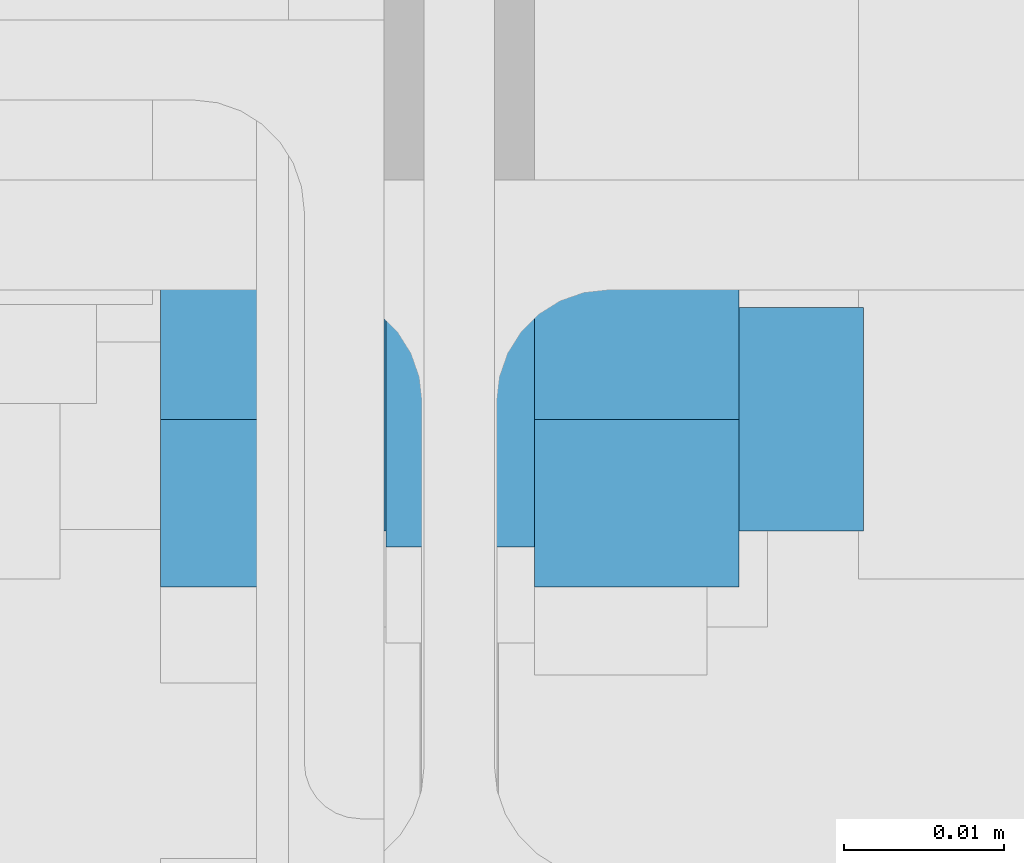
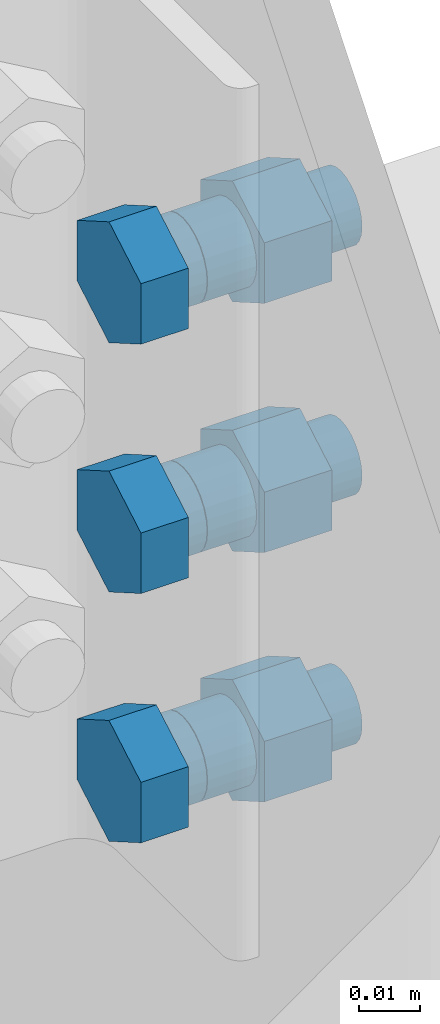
# One storey, part 14 of 21: 1 mechanical fastener.
"""IFC2X3 building model written with IfcOpenShell, lengths in millimetres."""

from ifc_helpers import new_model, si_unit, frame, origin_with_axes, place, context, project, spatial, faceted_brep, element, save


model = new_model("IFC2X3")

# Units and contexts
model_context_1 = context("Model", 3, precision=1e-05, world=origin_with_axes(), identifier="Body")
model_context_2 = context("Model", 3, precision=1e-05, world=origin_with_axes())
ifc_project = project(units=[si_unit("LENGTHUNIT", "METRE", prefix="MILLI"), si_unit("AREAUNIT", "SQUARE_METRE"), si_unit("VOLUMEUNIT", "CUBIC_METRE"), si_unit("MASSUNIT", "GRAM", prefix="KILO"), si_unit("TIMEUNIT", "SECOND"), si_unit("PLANEANGLEUNIT", "RADIAN"), si_unit("SOLIDANGLEUNIT", "STERADIAN"), si_unit("THERMODYNAMICTEMPERATUREUNIT", "DEGREE_CELSIUS"), si_unit("LUMINOUSINTENSITYUNIT", "LUMEN")], contexts=[model_context_1, model_context_2])

# Site, building, storey
site_placement = place(None, origin_with_axes())
site = spatial("IfcSite", under=ifc_project, at=site_placement, Name="Undefined", CompositionType="ELEMENT")
building_placement = place(site_placement, origin_with_axes())
building = spatial("IfcBuilding", under=site, at=building_placement, Name="Undefined", CompositionType="ELEMENT")
storey_placement = place(building_placement, origin_with_axes())
storey = spatial("IfcBuildingStorey", under=building, at=storey_placement, Name="Undefined", CompositionType="ELEMENT")

# Mechanical fastener
mechanical_fastener_placement = place(storey_placement, frame((9.7291426e-06, -99.999195, 70.583134), z_axis=(3.4106055e-16, -1.0, -3.1900003e-05), x_axis=(1.2899234e-13, 3.1900003e-05, -1.0)))
element("IfcMechanicalFastener", 1, at=mechanical_fastener_placement, inside=storey, Name="Bolt assembly", NominalDiameter=14.0, NominalLength=35.0, context=model_context_1, shape_type="Brep", body=[
    faceted_brep([(12.124356, -18.70001, 0.0), (6.0621778, -18.70001, 10.5), (-6.0621778, -18.70001, 10.5), (-12.124356, -18.70001, 0.0), (-6.0621778, -18.70001, -10.5), (6.0621778, -18.70001, -10.5), (6.0621778, -9.7000095, -10.5), (-6.0621778, -9.7000095, -10.5), (-12.124356, -9.7000095, 0.0), (-6.0621778, -9.7000095, 10.5), (6.0621778, -9.7000095, 10.5), (12.124356, -9.7000095, 0.0), (7.0, -9.7000095, 0.0), (6.7614808, -9.7000095, 1.8117333), (6.0621778, -9.7000095, 3.5), (4.9497475, -9.7000095, 4.9497475), (3.5, -9.7000095, 6.0621778), (1.8117333, -9.7000095, 6.7614808), (-7.2543519e-13, -9.7000095, 7.0), (-1.8117333, -9.7000095, 6.7614808), (-3.5, -9.7000095, 6.0621778), (-4.9497475, -9.7000095, 4.9497475), (-6.0621778, -9.7000095, 3.5), (-6.7614808, -9.7000095, 1.8117333), (-7.0, -9.7000095, -1.4508704e-12), (-6.7614808, -9.7000095, -1.8117333), (-6.0621778, -9.7000095, -3.5), (-4.9497475, -9.7000095, -4.9497475), (-3.5, -9.7000095, -6.0621778), (-1.8117333, -9.7000095, -6.7614808), (2.168534e-12, -9.7000095, -7.0), (1.8117333, -9.7000095, -6.7614808), (3.5, -9.7000095, -6.0621778), (4.9497475, -9.7000095, -4.9497475), (6.0621778, -9.7000095, -3.5), (6.7614808, -9.7000095, -1.8117333), (6.7614808, 25.29999, -1.8117333), (6.0621778, 25.29999, -3.5), (4.9497475, 25.29999, -4.9497475), (3.5, 25.29999, -6.0621778), (1.8117333, 25.29999, -6.7614808), (2.168534e-12, 25.29999, -7.0), (-1.8117333, 25.29999, -6.7614808), (-3.5, 25.29999, -6.0621778), (-4.9497475, 25.29999, -4.9497475), (-6.0621778, 25.29999, -3.5), (-6.7614808, 25.29999, -1.8117333), (-7.0, 25.29999, -1.4508704e-12), (-6.7614808, 25.29999, 1.8117333), (-6.0621778, 25.29999, 3.5), (-4.9497475, 25.29999, 4.9497475), (-3.5, 25.29999, 6.0621778), (-1.8117333, 25.29999, 6.7614808), (-7.2543519e-13, 25.29999, 7.0), (1.8117333, 25.29999, 6.7614808), (3.5, 25.29999, 6.0621778), (4.9497475, 25.29999, 4.9497475), (6.0621778, 25.29999, 3.5), (6.7614808, 25.29999, 1.8117333), (7.0, 25.29999, 0.0), (12.124356, 4.6999901, 0.0), (6.0621778, 4.6999901, 10.5), (-6.0621778, 4.6999901, 10.5), (-12.124356, 4.6999901, 0.0), (-6.0621778, 4.6999901, -10.5), (6.0621778, 4.6999901, -10.5), (6.0621778, 17.49999, -10.5), (-6.0621778, 17.49999, -10.5), (-12.124356, 17.49999, 0.0), (-6.0621778, 17.49999, 10.5), (6.0621778, 17.49999, 10.5), (12.124356, 17.49999, 0.0), (62.124356, -18.70001, 0.0), (56.062178, -18.70001, 10.5), (43.937822, -18.70001, 10.5), (37.875644, -18.70001, 0.0), (43.937822, -18.70001, -10.5), (56.062178, -18.70001, -10.5), (56.062178, -9.7000095, -10.5), (43.937822, -9.7000095, -10.5), (37.875644, -9.7000095, 0.0), (43.937822, -9.7000095, 10.5), (56.062178, -9.7000095, 10.5), (62.124356, -9.7000095, 0.0), (57.0, -9.7000095, 0.0), (56.761481, -9.7000095, 1.8117333), (56.062178, -9.7000095, 3.5), (54.949747, -9.7000095, 4.9497475), (53.5, -9.7000095, 6.0621778), (51.811733, -9.7000095, 6.7614808), (50.0, -9.7000095, 7.0), (48.188267, -9.7000095, 6.7614808), (46.5, -9.7000095, 6.0621778), (45.050253, -9.7000095, 4.9497475), (43.937822, -9.7000095, 3.5), (43.238519, -9.7000095, 1.8117333), (43.0, -9.7000095, -1.4508704e-12), (43.238519, -9.7000095, -1.8117333), (43.937822, -9.7000095, -3.5), (45.050253, -9.7000095, -4.9497475), (46.5, -9.7000095, -6.0621778), (48.188267, -9.7000095, -6.7614808), (50.0, -9.7000095, -7.0), (51.811733, -9.7000095, -6.7614808), (53.5, -9.7000095, -6.0621778), (54.949747, -9.7000095, -4.9497475), (56.062178, -9.7000095, -3.5), (56.761481, -9.7000095, -1.8117333), (56.761481, 25.29999, -1.8117333), (56.062178, 25.29999, -3.5), (54.949747, 25.29999, -4.9497475), (53.5, 25.29999, -6.0621778), (51.811733, 25.29999, -6.7614808), (50.0, 25.29999, -7.0), (48.188267, 25.29999, -6.7614808), (46.5, 25.29999, -6.0621778), (45.050253, 25.29999, -4.9497475), (43.937822, 25.29999, -3.5), (43.238519, 25.29999, -1.8117333), (43.0, 25.29999, -1.4508704e-12), (43.238519, 25.29999, 1.8117333), (43.937822, 25.29999, 3.5), (45.050253, 25.29999, 4.9497475), (46.5, 25.29999, 6.0621778), (48.188267, 25.29999, 6.7614808), (50.0, 25.29999, 7.0), (51.811733, 25.29999, 6.7614808), (53.5, 25.29999, 6.0621778), (54.949747, 25.29999, 4.9497475), (56.062178, 25.29999, 3.5), (56.761481, 25.29999, 1.8117333), (57.0, 25.29999, 0.0), (62.124356, 4.6999901, 0.0), (56.062178, 4.6999901, 10.5), (43.937822, 4.6999901, 10.5), (37.875644, 4.6999901, 0.0), (43.937822, 4.6999901, -10.5), (56.062178, 4.6999901, -10.5), (56.062178, 17.49999, -10.5), (43.937822, 17.49999, -10.5), (37.875644, 17.49999, 0.0), (43.937822, 17.49999, 10.5), (56.062178, 17.49999, 10.5), (62.124356, 17.49999, 0.0), (112.12436, -18.70001, 0.0), (106.06218, -18.70001, 10.5), (93.937822, -18.70001, 10.5), (87.875644, -18.70001, 0.0), (93.937822, -18.70001, -10.5), (106.06218, -18.70001, -10.5), (106.06218, -9.7000095, -10.5), (93.937822, -9.7000095, -10.5), (87.875644, -9.7000095, 0.0), (93.937822, -9.7000095, 10.5), (106.06218, -9.7000095, 10.5), (112.12436, -9.7000095, 0.0), (107.0, -9.7000095, 0.0), (106.76148, -9.7000095, 1.8117333), (106.06218, -9.7000095, 3.5), (104.94975, -9.7000095, 4.9497475), (103.5, -9.7000095, 6.0621778), (101.81173, -9.7000095, 6.7614808), (100.0, -9.7000095, 7.0), (98.188267, -9.7000095, 6.7614808), (96.5, -9.7000095, 6.0621778), (95.050253, -9.7000095, 4.9497475), (93.937822, -9.7000095, 3.5), (93.238519, -9.7000095, 1.8117333), (93.0, -9.7000095, -1.4508704e-12), (93.238519, -9.7000095, -1.8117333), (93.937822, -9.7000095, -3.5), (95.050253, -9.7000095, -4.9497475), (96.5, -9.7000095, -6.0621778), (98.188267, -9.7000095, -6.7614808), (100.0, -9.7000095, -7.0), (101.81173, -9.7000095, -6.7614808), (103.5, -9.7000095, -6.0621778), (104.94975, -9.7000095, -4.9497475), (106.06218, -9.7000095, -3.5), (106.76148, -9.7000095, -1.8117333), (106.76148, 25.29999, -1.8117333), (106.06218, 25.29999, -3.5), (104.94975, 25.29999, -4.9497475), (103.5, 25.29999, -6.0621778), (101.81173, 25.29999, -6.7614808), (100.0, 25.29999, -7.0), (98.188267, 25.29999, -6.7614808), (96.5, 25.29999, -6.0621778), (95.050253, 25.29999, -4.9497475), (93.937822, 25.29999, -3.5), (93.238519, 25.29999, -1.8117333), (93.0, 25.29999, -1.4508704e-12), (93.238519, 25.29999, 1.8117333), (93.937822, 25.29999, 3.5), (95.050253, 25.29999, 4.9497475), (96.5, 25.29999, 6.0621778), (98.188267, 25.29999, 6.7614808), (100.0, 25.29999, 7.0), (101.81173, 25.29999, 6.7614808), (103.5, 25.29999, 6.0621778), (104.94975, 25.29999, 4.9497475), (106.06218, 25.29999, 3.5), (106.76148, 25.29999, 1.8117333), (107.0, 25.29999, 0.0), (112.12436, 4.6999901, 0.0), (106.06218, 4.6999901, 10.5), (93.937822, 4.6999901, 10.5), (87.875644, 4.6999901, 0.0), (93.937822, 4.6999901, -10.5), (106.06218, 4.6999901, -10.5), (106.06218, 17.49999, -10.5), (93.937822, 17.49999, -10.5), (87.875644, 17.49999, 0.0), (93.937822, 17.49999, 10.5), (106.06218, 17.49999, 10.5), (112.12436, 17.49999, 0.0)], [[[0, 1, 2, 3, 4, 5]], [[6, 7, 8, 9, 10, 11]], [[0, 11, 10, 1]], [[1, 10, 9, 2]], [[2, 9, 8, 3]], [[3, 8, 7, 4]], [[4, 7, 6, 5]], [[5, 6, 11, 0]], [[12, 13, 14, 15, 16, 17, 18, 19, 20, 21, 22, 23, 24, 25, 26, 27, 28, 29, 30, 31, 32, 33, 34, 35]], [[36, 37, 38, 39, 40, 41, 42, 43, 44, 45, 46, 47, 48, 49, 50, 51, 52, 53, 54, 55, 56, 57, 58, 59]], [[12, 59, 58, 13]], [[13, 58, 57, 14]], [[14, 57, 56, 15]], [[15, 56, 55, 16]], [[16, 55, 54, 17]], [[17, 54, 53, 18]], [[18, 53, 52, 19]], [[19, 52, 51, 20]], [[20, 51, 50, 21]], [[21, 50, 49, 22]], [[22, 49, 48, 23]], [[23, 48, 47, 24]], [[24, 47, 46, 25]], [[25, 46, 45, 26]], [[26, 45, 44, 27]], [[27, 44, 43, 28]], [[28, 43, 42, 29]], [[29, 42, 41, 30]], [[30, 41, 40, 31]], [[31, 40, 39, 32]], [[32, 39, 38, 33]], [[33, 38, 37, 34]], [[34, 37, 36, 35]], [[35, 36, 59, 12]], [[60, 61, 62, 63, 64, 65]], [[66, 67, 68, 69, 70, 71]], [[60, 71, 70, 61]], [[61, 70, 69, 62]], [[62, 69, 68, 63]], [[63, 68, 67, 64]], [[64, 67, 66, 65]], [[65, 66, 71, 60]], [[72, 73, 74, 75, 76, 77]], [[78, 79, 80, 81, 82, 83]], [[72, 83, 82, 73]], [[73, 82, 81, 74]], [[74, 81, 80, 75]], [[75, 80, 79, 76]], [[76, 79, 78, 77]], [[77, 78, 83, 72]], [[84, 85, 86, 87, 88, 89, 90, 91, 92, 93, 94, 95, 96, 97, 98, 99, 100, 101, 102, 103, 104, 105, 106, 107]], [[108, 109, 110, 111, 112, 113, 114, 115, 116, 117, 118, 119, 120, 121, 122, 123, 124, 125, 126, 127, 128, 129, 130, 131]], [[84, 131, 130, 85]], [[85, 130, 129, 86]], [[86, 129, 128, 87]], [[87, 128, 127, 88]], [[88, 127, 126, 89]], [[89, 126, 125, 90]], [[90, 125, 124, 91]], [[91, 124, 123, 92]], [[92, 123, 122, 93]], [[93, 122, 121, 94]], [[94, 121, 120, 95]], [[95, 120, 119, 96]], [[96, 119, 118, 97]], [[97, 118, 117, 98]], [[98, 117, 116, 99]], [[99, 116, 115, 100]], [[100, 115, 114, 101]], [[101, 114, 113, 102]], [[102, 113, 112, 103]], [[103, 112, 111, 104]], [[104, 111, 110, 105]], [[105, 110, 109, 106]], [[106, 109, 108, 107]], [[107, 108, 131, 84]], [[132, 133, 134, 135, 136, 137]], [[138, 139, 140, 141, 142, 143]], [[132, 143, 142, 133]], [[133, 142, 141, 134]], [[134, 141, 140, 135]], [[135, 140, 139, 136]], [[136, 139, 138, 137]], [[137, 138, 143, 132]], [[144, 145, 146, 147, 148, 149]], [[150, 151, 152, 153, 154, 155]], [[144, 155, 154, 145]], [[145, 154, 153, 146]], [[146, 153, 152, 147]], [[147, 152, 151, 148]], [[148, 151, 150, 149]], [[149, 150, 155, 144]], [[156, 157, 158, 159, 160, 161, 162, 163, 164, 165, 166, 167, 168, 169, 170, 171, 172, 173, 174, 175, 176, 177, 178, 179]], [[180, 181, 182, 183, 184, 185, 186, 187, 188, 189, 190, 191, 192, 193, 194, 195, 196, 197, 198, 199, 200, 201, 202, 203]], [[156, 203, 202, 157]], [[157, 202, 201, 158]], [[158, 201, 200, 159]], [[159, 200, 199, 160]], [[160, 199, 198, 161]], [[161, 198, 197, 162]], [[162, 197, 196, 163]], [[163, 196, 195, 164]], [[164, 195, 194, 165]], [[165, 194, 193, 166]], [[166, 193, 192, 167]], [[167, 192, 191, 168]], [[168, 191, 190, 169]], [[169, 190, 189, 170]], [[170, 189, 188, 171]], [[171, 188, 187, 172]], [[172, 187, 186, 173]], [[173, 186, 185, 174]], [[174, 185, 184, 175]], [[175, 184, 183, 176]], [[176, 183, 182, 177]], [[177, 182, 181, 178]], [[178, 181, 180, 179]], [[179, 180, 203, 156]], [[204, 205, 206, 207, 208, 209]], [[210, 211, 212, 213, 214, 215]], [[204, 215, 214, 205]], [[205, 214, 213, 206]], [[206, 213, 212, 207]], [[207, 212, 211, 208]], [[208, 211, 210, 209]], [[209, 210, 215, 204]]]),
    faceted_brep([(8.0, -4.6000095, 0.0), (7.7274066, -4.6000095, 2.0705524), (6.9282032, -4.6000095, 4.0), (5.6568542, -4.6000095, 5.6568542), (4.0, -4.6000095, 6.9282032), (2.0705524, -4.6000095, 7.7274066), (-8.2906879e-13, -4.6000095, 8.0), (-2.0705524, -4.6000095, 7.7274066), (-4.0, -4.6000095, 6.9282032), (-5.6568542, -4.6000095, 5.6568542), (-6.9282032, -4.6000095, 4.0), (-7.7274066, -4.6000095, 2.0705524), (-8.0, -4.6000095, -1.6581376e-12), (-7.7274066, -4.6000095, -2.0705524), (-6.9282032, -4.6000095, -4.0), (-5.6568542, -4.6000095, -5.6568542), (-4.0, -4.6000095, -6.9282032), (-2.0705524, -4.6000095, -7.7274066), (2.4783246e-12, -4.6000095, -8.0), (2.0705524, -4.6000095, -7.7274066), (4.0, -4.6000095, -6.9282032), (5.6568542, -4.6000095, -5.6568542), (6.9282032, -4.6000095, -4.0), (7.7274066, -4.6000095, -2.0705524), (7.7274066, 4.7999901, -2.0705524), (6.9282032, 4.7999901, -4.0), (5.6568542, 4.7999901, -5.6568542), (4.0, 4.7999901, -6.9282032), (2.0705524, 4.7999901, -7.7274066), (2.4783246e-12, 4.7999901, -8.0), (-2.0705524, 4.7999901, -7.7274066), (-4.0, 4.7999901, -6.9282032), (-5.6568542, 4.7999901, -5.6568542), (-6.9282032, 4.7999901, -4.0), (-7.7274066, 4.7999901, -2.0705524), (-8.0, 4.7999901, -1.6581376e-12), (-7.7274066, 4.7999901, 2.0705524), (-6.9282032, 4.7999901, 4.0), (-5.6568542, 4.7999901, 5.6568542), (-4.0, 4.7999901, 6.9282032), (-2.0705524, 4.7999901, 7.7274066), (-8.2906879e-13, 4.7999901, 8.0), (2.0705524, 4.7999901, 7.7274066), (4.0, 4.7999901, 6.9282032), (5.6568542, 4.7999901, 5.6568542), (6.9282032, 4.7999901, 4.0), (7.7274066, 4.7999901, 2.0705524), (8.0, 4.7999901, 0.0), (8.0, -9.8000095, 0.0), (7.7274066, -9.8000095, 2.0705524), (6.9282032, -9.8000095, 4.0), (5.6568542, -9.8000095, 5.6568542), (4.0, -9.8000095, 6.9282032), (2.0705524, -9.8000095, 7.7274066), (-8.2906879e-13, -9.8000095, 8.0), (-2.0705524, -9.8000095, 7.7274066), (-4.0, -9.8000095, 6.9282032), (-5.6568542, -9.8000095, 5.6568542), (-6.9282032, -9.8000095, 4.0), (-7.7274066, -9.8000095, 2.0705524), (-8.0, -9.8000095, -1.6581376e-12), (-7.7274066, -9.8000095, -2.0705524), (-6.9282032, -9.8000095, -4.0), (-5.6568542, -9.8000095, -5.6568542), (-4.0, -9.8000095, -6.9282032), (-2.0705524, -9.8000095, -7.7274066), (2.4783246e-12, -9.8000095, -8.0), (2.0705524, -9.8000095, -7.7274066), (4.0, -9.8000095, -6.9282032), (5.6568542, -9.8000095, -5.6568542), (6.9282032, -9.8000095, -4.0), (7.7274066, -9.8000095, -2.0705524), (7.7274066, -4.7000095, -2.0705524), (6.9282032, -4.7000095, -4.0), (5.6568542, -4.7000095, -5.6568542), (4.0, -4.7000095, -6.9282032), (2.0705524, -4.7000095, -7.7274066), (2.4783246e-12, -4.7000095, -8.0), (-2.0705524, -4.7000095, -7.7274066), (-4.0, -4.7000095, -6.9282032), (-5.6568542, -4.7000095, -5.6568542), (-6.9282032, -4.7000095, -4.0), (-7.7274066, -4.7000095, -2.0705524), (-8.0, -4.7000095, -1.6581376e-12), (-7.7274066, -4.7000095, 2.0705524), (-6.9282032, -4.7000095, 4.0), (-5.6568542, -4.7000095, 5.6568542), (-4.0, -4.7000095, 6.9282032), (-2.0705524, -4.7000095, 7.7274066), (-8.2906879e-13, -4.7000095, 8.0), (2.0705524, -4.7000095, 7.7274066), (4.0, -4.7000095, 6.9282032), (5.6568542, -4.7000095, 5.6568542), (6.9282032, -4.7000095, 4.0), (7.7274066, -4.7000095, 2.0705524), (8.0, -4.7000095, 0.0), (58.0, -4.6000095, 0.0), (57.727407, -4.6000095, 2.0705524), (56.928203, -4.6000095, 4.0), (55.656854, -4.6000095, 5.6568542), (54.0, -4.6000095, 6.9282032), (52.070552, -4.6000095, 7.7274066), (50.0, -4.6000095, 8.0), (47.929448, -4.6000095, 7.7274066), (46.0, -4.6000095, 6.9282032), (44.343146, -4.6000095, 5.6568542), (43.071797, -4.6000095, 4.0), (42.272593, -4.6000095, 2.0705524), (42.0, -4.6000095, -1.6581376e-12), (42.272593, -4.6000095, -2.0705524), (43.071797, -4.6000095, -4.0), (44.343146, -4.6000095, -5.6568542), (46.0, -4.6000095, -6.9282032), (47.929448, -4.6000095, -7.7274066), (50.0, -4.6000095, -8.0), (52.070552, -4.6000095, -7.7274066), (54.0, -4.6000095, -6.9282032), (55.656854, -4.6000095, -5.6568542), (56.928203, -4.6000095, -4.0), (57.727407, -4.6000095, -2.0705524), (57.727407, 4.7999901, -2.0705524), (56.928203, 4.7999901, -4.0), (55.656854, 4.7999901, -5.6568542), (54.0, 4.7999901, -6.9282032), (52.070552, 4.7999901, -7.7274066), (50.0, 4.7999901, -8.0), (47.929448, 4.7999901, -7.7274066), (46.0, 4.7999901, -6.9282032), (44.343146, 4.7999901, -5.6568542), (43.071797, 4.7999901, -4.0), (42.272593, 4.7999901, -2.0705524), (42.0, 4.7999901, -1.6581376e-12), (42.272593, 4.7999901, 2.0705524), (43.071797, 4.7999901, 4.0), (44.343146, 4.7999901, 5.6568542), (46.0, 4.7999901, 6.9282032), (47.929448, 4.7999901, 7.7274066), (50.0, 4.7999901, 8.0), (52.070552, 4.7999901, 7.7274066), (54.0, 4.7999901, 6.9282032), (55.656854, 4.7999901, 5.6568542), (56.928203, 4.7999901, 4.0), (57.727407, 4.7999901, 2.0705524), (58.0, 4.7999901, 0.0), (58.0, -9.8000095, 0.0), (57.727407, -9.8000095, 2.0705524), (56.928203, -9.8000095, 4.0), (55.656854, -9.8000095, 5.6568542), (54.0, -9.8000095, 6.9282032), (52.070552, -9.8000095, 7.7274066), (50.0, -9.8000095, 8.0), (47.929448, -9.8000095, 7.7274066), (46.0, -9.8000095, 6.9282032), (44.343146, -9.8000095, 5.6568542), (43.071797, -9.8000095, 4.0), (42.272593, -9.8000095, 2.0705524), (42.0, -9.8000095, -1.6581376e-12), (42.272593, -9.8000095, -2.0705524), (43.071797, -9.8000095, -4.0), (44.343146, -9.8000095, -5.6568542), (46.0, -9.8000095, -6.9282032), (47.929448, -9.8000095, -7.7274066), (50.0, -9.8000095, -8.0), (52.070552, -9.8000095, -7.7274066), (54.0, -9.8000095, -6.9282032), (55.656854, -9.8000095, -5.6568542), (56.928203, -9.8000095, -4.0), (57.727407, -9.8000095, -2.0705524), (57.727407, -4.7000095, -2.0705524), (56.928203, -4.7000095, -4.0), (55.656854, -4.7000095, -5.6568542), (54.0, -4.7000095, -6.9282032), (52.070552, -4.7000095, -7.7274066), (50.0, -4.7000095, -8.0), (47.929448, -4.7000095, -7.7274066), (46.0, -4.7000095, -6.9282032), (44.343146, -4.7000095, -5.6568542), (43.071797, -4.7000095, -4.0), (42.272593, -4.7000095, -2.0705524), (42.0, -4.7000095, -1.6581376e-12), (42.272593, -4.7000095, 2.0705524), (43.071797, -4.7000095, 4.0), (44.343146, -4.7000095, 5.6568542), (46.0, -4.7000095, 6.9282032), (47.929448, -4.7000095, 7.7274066), (50.0, -4.7000095, 8.0), (52.070552, -4.7000095, 7.7274066), (54.0, -4.7000095, 6.9282032), (55.656854, -4.7000095, 5.6568542), (56.928203, -4.7000095, 4.0), (57.727407, -4.7000095, 2.0705524), (58.0, -4.7000095, 0.0), (108.0, -4.6000095, 0.0), (107.72741, -4.6000095, 2.0705524), (106.9282, -4.6000095, 4.0), (105.65685, -4.6000095, 5.6568542), (104.0, -4.6000095, 6.9282032), (102.07055, -4.6000095, 7.7274066), (100.0, -4.6000095, 8.0), (97.929448, -4.6000095, 7.7274066), (96.0, -4.6000095, 6.9282032), (94.343146, -4.6000095, 5.6568542), (93.071797, -4.6000095, 4.0), (92.272593, -4.6000095, 2.0705524), (92.0, -4.6000095, -1.6581376e-12), (92.272593, -4.6000095, -2.0705524), (93.071797, -4.6000095, -4.0), (94.343146, -4.6000095, -5.6568542), (96.0, -4.6000095, -6.9282032), (97.929448, -4.6000095, -7.7274066), (100.0, -4.6000095, -8.0), (102.07055, -4.6000095, -7.7274066), (104.0, -4.6000095, -6.9282032), (105.65685, -4.6000095, -5.6568542), (106.9282, -4.6000095, -4.0), (107.72741, -4.6000095, -2.0705524), (107.72741, 4.7999901, -2.0705524), (106.9282, 4.7999901, -4.0), (105.65685, 4.7999901, -5.6568542), (104.0, 4.7999901, -6.9282032), (102.07055, 4.7999901, -7.7274066), (100.0, 4.7999901, -8.0), (97.929448, 4.7999901, -7.7274066), (96.0, 4.7999901, -6.9282032), (94.343146, 4.7999901, -5.6568542), (93.071797, 4.7999901, -4.0), (92.272593, 4.7999901, -2.0705524), (92.0, 4.7999901, -1.6581376e-12), (92.272593, 4.7999901, 2.0705524), (93.071797, 4.7999901, 4.0), (94.343146, 4.7999901, 5.6568542), (96.0, 4.7999901, 6.9282032), (97.929448, 4.7999901, 7.7274066), (100.0, 4.7999901, 8.0), (102.07055, 4.7999901, 7.7274066), (104.0, 4.7999901, 6.9282032), (105.65685, 4.7999901, 5.6568542), (106.9282, 4.7999901, 4.0), (107.72741, 4.7999901, 2.0705524), (108.0, 4.7999901, 0.0), (108.0, -9.8000095, 0.0), (107.72741, -9.8000095, 2.0705524), (106.9282, -9.8000095, 4.0), (105.65685, -9.8000095, 5.6568542), (104.0, -9.8000095, 6.9282032), (102.07055, -9.8000095, 7.7274066), (100.0, -9.8000095, 8.0), (97.929448, -9.8000095, 7.7274066), (96.0, -9.8000095, 6.9282032), (94.343146, -9.8000095, 5.6568542), (93.071797, -9.8000095, 4.0), (92.272593, -9.8000095, 2.0705524), (92.0, -9.8000095, -1.6581376e-12), (92.272593, -9.8000095, -2.0705524), (93.071797, -9.8000095, -4.0), (94.343146, -9.8000095, -5.6568542), (96.0, -9.8000095, -6.9282032), (97.929448, -9.8000095, -7.7274066), (100.0, -9.8000095, -8.0), (102.07055, -9.8000095, -7.7274066), (104.0, -9.8000095, -6.9282032), (105.65685, -9.8000095, -5.6568542), (106.9282, -9.8000095, -4.0), (107.72741, -9.8000095, -2.0705524), (107.72741, -4.7000095, -2.0705524), (106.9282, -4.7000095, -4.0), (105.65685, -4.7000095, -5.6568542), (104.0, -4.7000095, -6.9282032), (102.07055, -4.7000095, -7.7274066), (100.0, -4.7000095, -8.0), (97.929448, -4.7000095, -7.7274066), (96.0, -4.7000095, -6.9282032), (94.343146, -4.7000095, -5.6568542), (93.071797, -4.7000095, -4.0), (92.272593, -4.7000095, -2.0705524), (92.0, -4.7000095, -1.6581376e-12), (92.272593, -4.7000095, 2.0705524), (93.071797, -4.7000095, 4.0), (94.343146, -4.7000095, 5.6568542), (96.0, -4.7000095, 6.9282032), (97.929448, -4.7000095, 7.7274066), (100.0, -4.7000095, 8.0), (102.07055, -4.7000095, 7.7274066), (104.0, -4.7000095, 6.9282032), (105.65685, -4.7000095, 5.6568542), (106.9282, -4.7000095, 4.0), (107.72741, -4.7000095, 2.0705524), (108.0, -4.7000095, 0.0)], [[[0, 1, 2, 3, 4, 5, 6, 7, 8, 9, 10, 11, 12, 13, 14, 15, 16, 17, 18, 19, 20, 21, 22, 23]], [[24, 25, 26, 27, 28, 29, 30, 31, 32, 33, 34, 35, 36, 37, 38, 39, 40, 41, 42, 43, 44, 45, 46, 47]], [[0, 47, 46, 1]], [[1, 46, 45, 2]], [[2, 45, 44, 3]], [[3, 44, 43, 4]], [[4, 43, 42, 5]], [[5, 42, 41, 6]], [[6, 41, 40, 7]], [[7, 40, 39, 8]], [[8, 39, 38, 9]], [[9, 38, 37, 10]], [[10, 37, 36, 11]], [[11, 36, 35, 12]], [[12, 35, 34, 13]], [[13, 34, 33, 14]], [[14, 33, 32, 15]], [[15, 32, 31, 16]], [[16, 31, 30, 17]], [[17, 30, 29, 18]], [[18, 29, 28, 19]], [[19, 28, 27, 20]], [[20, 27, 26, 21]], [[21, 26, 25, 22]], [[22, 25, 24, 23]], [[23, 24, 47, 0]], [[48, 49, 50, 51, 52, 53, 54, 55, 56, 57, 58, 59, 60, 61, 62, 63, 64, 65, 66, 67, 68, 69, 70, 71]], [[72, 73, 74, 75, 76, 77, 78, 79, 80, 81, 82, 83, 84, 85, 86, 87, 88, 89, 90, 91, 92, 93, 94, 95]], [[48, 95, 94, 49]], [[49, 94, 93, 50]], [[50, 93, 92, 51]], [[51, 92, 91, 52]], [[52, 91, 90, 53]], [[53, 90, 89, 54]], [[54, 89, 88, 55]], [[55, 88, 87, 56]], [[56, 87, 86, 57]], [[57, 86, 85, 58]], [[58, 85, 84, 59]], [[59, 84, 83, 60]], [[60, 83, 82, 61]], [[61, 82, 81, 62]], [[62, 81, 80, 63]], [[63, 80, 79, 64]], [[64, 79, 78, 65]], [[65, 78, 77, 66]], [[66, 77, 76, 67]], [[67, 76, 75, 68]], [[68, 75, 74, 69]], [[69, 74, 73, 70]], [[70, 73, 72, 71]], [[71, 72, 95, 48]], [[96, 97, 98, 99, 100, 101, 102, 103, 104, 105, 106, 107, 108, 109, 110, 111, 112, 113, 114, 115, 116, 117, 118, 119]], [[120, 121, 122, 123, 124, 125, 126, 127, 128, 129, 130, 131, 132, 133, 134, 135, 136, 137, 138, 139, 140, 141, 142, 143]], [[96, 143, 142, 97]], [[97, 142, 141, 98]], [[98, 141, 140, 99]], [[99, 140, 139, 100]], [[100, 139, 138, 101]], [[101, 138, 137, 102]], [[102, 137, 136, 103]], [[103, 136, 135, 104]], [[104, 135, 134, 105]], [[105, 134, 133, 106]], [[106, 133, 132, 107]], [[107, 132, 131, 108]], [[108, 131, 130, 109]], [[109, 130, 129, 110]], [[110, 129, 128, 111]], [[111, 128, 127, 112]], [[112, 127, 126, 113]], [[113, 126, 125, 114]], [[114, 125, 124, 115]], [[115, 124, 123, 116]], [[116, 123, 122, 117]], [[117, 122, 121, 118]], [[118, 121, 120, 119]], [[119, 120, 143, 96]], [[144, 145, 146, 147, 148, 149, 150, 151, 152, 153, 154, 155, 156, 157, 158, 159, 160, 161, 162, 163, 164, 165, 166, 167]], [[168, 169, 170, 171, 172, 173, 174, 175, 176, 177, 178, 179, 180, 181, 182, 183, 184, 185, 186, 187, 188, 189, 190, 191]], [[144, 191, 190, 145]], [[145, 190, 189, 146]], [[146, 189, 188, 147]], [[147, 188, 187, 148]], [[148, 187, 186, 149]], [[149, 186, 185, 150]], [[150, 185, 184, 151]], [[151, 184, 183, 152]], [[152, 183, 182, 153]], [[153, 182, 181, 154]], [[154, 181, 180, 155]], [[155, 180, 179, 156]], [[156, 179, 178, 157]], [[157, 178, 177, 158]], [[158, 177, 176, 159]], [[159, 176, 175, 160]], [[160, 175, 174, 161]], [[161, 174, 173, 162]], [[162, 173, 172, 163]], [[163, 172, 171, 164]], [[164, 171, 170, 165]], [[165, 170, 169, 166]], [[166, 169, 168, 167]], [[167, 168, 191, 144]], [[192, 193, 194, 195, 196, 197, 198, 199, 200, 201, 202, 203, 204, 205, 206, 207, 208, 209, 210, 211, 212, 213, 214, 215]], [[216, 217, 218, 219, 220, 221, 222, 223, 224, 225, 226, 227, 228, 229, 230, 231, 232, 233, 234, 235, 236, 237, 238, 239]], [[192, 239, 238, 193]], [[193, 238, 237, 194]], [[194, 237, 236, 195]], [[195, 236, 235, 196]], [[196, 235, 234, 197]], [[197, 234, 233, 198]], [[198, 233, 232, 199]], [[199, 232, 231, 200]], [[200, 231, 230, 201]], [[201, 230, 229, 202]], [[202, 229, 228, 203]], [[203, 228, 227, 204]], [[204, 227, 226, 205]], [[205, 226, 225, 206]], [[206, 225, 224, 207]], [[207, 224, 223, 208]], [[208, 223, 222, 209]], [[209, 222, 221, 210]], [[210, 221, 220, 211]], [[211, 220, 219, 212]], [[212, 219, 218, 213]], [[213, 218, 217, 214]], [[214, 217, 216, 215]], [[215, 216, 239, 192]], [[240, 241, 242, 243, 244, 245, 246, 247, 248, 249, 250, 251, 252, 253, 254, 255, 256, 257, 258, 259, 260, 261, 262, 263]], [[264, 265, 266, 267, 268, 269, 270, 271, 272, 273, 274, 275, 276, 277, 278, 279, 280, 281, 282, 283, 284, 285, 286, 287]], [[240, 287, 286, 241]], [[241, 286, 285, 242]], [[242, 285, 284, 243]], [[243, 284, 283, 244]], [[244, 283, 282, 245]], [[245, 282, 281, 246]], [[246, 281, 280, 247]], [[247, 280, 279, 248]], [[248, 279, 278, 249]], [[249, 278, 277, 250]], [[250, 277, 276, 251]], [[251, 276, 275, 252]], [[252, 275, 274, 253]], [[253, 274, 273, 254]], [[254, 273, 272, 255]], [[255, 272, 271, 256]], [[256, 271, 270, 257]], [[257, 270, 269, 258]], [[258, 269, 268, 259]], [[259, 268, 267, 260]], [[260, 267, 266, 261]], [[261, 266, 265, 262]], [[262, 265, 264, 263]], [[263, 264, 287, 240]]]),
])

save(model, "model.ifc")
